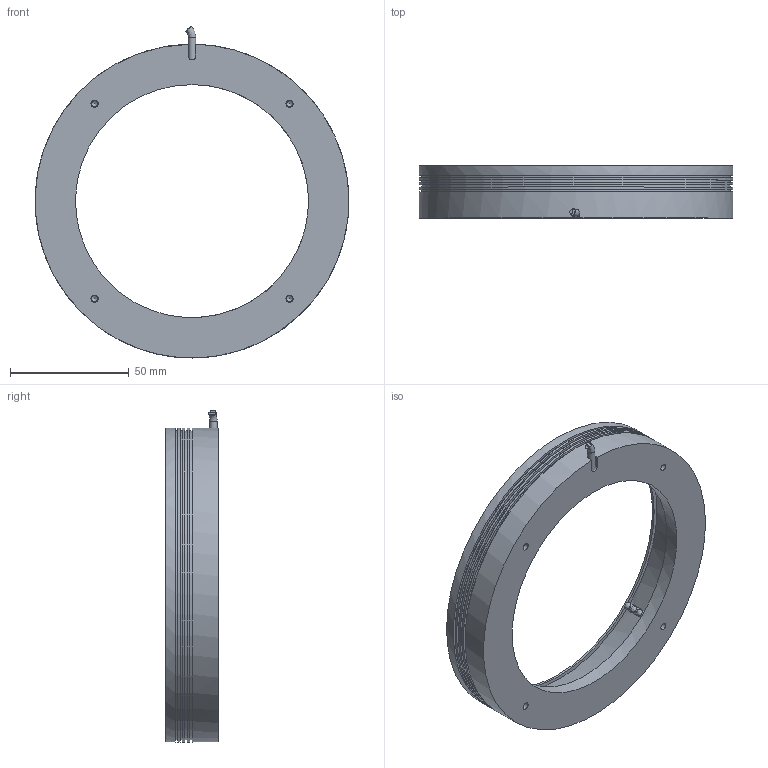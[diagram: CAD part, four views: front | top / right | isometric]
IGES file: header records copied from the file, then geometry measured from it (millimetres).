
Global section: file name: 153-00738_LR 132 xW-24-KFL5; native system: Autodesk Inventor 2018; preprocessor: unknown; author: ss; date: 20180725.092500; units: millimetre
Bounding box: 131.99 x 22 x 139.67 mm (x, y, z)
Volume: 94492.2 mm3; surface area: 34455.9 mm2
Topology: 8 solids, 8 shells, 140 faces, 353 edges, 257 vertices
Faces by surface type: bspline 140
